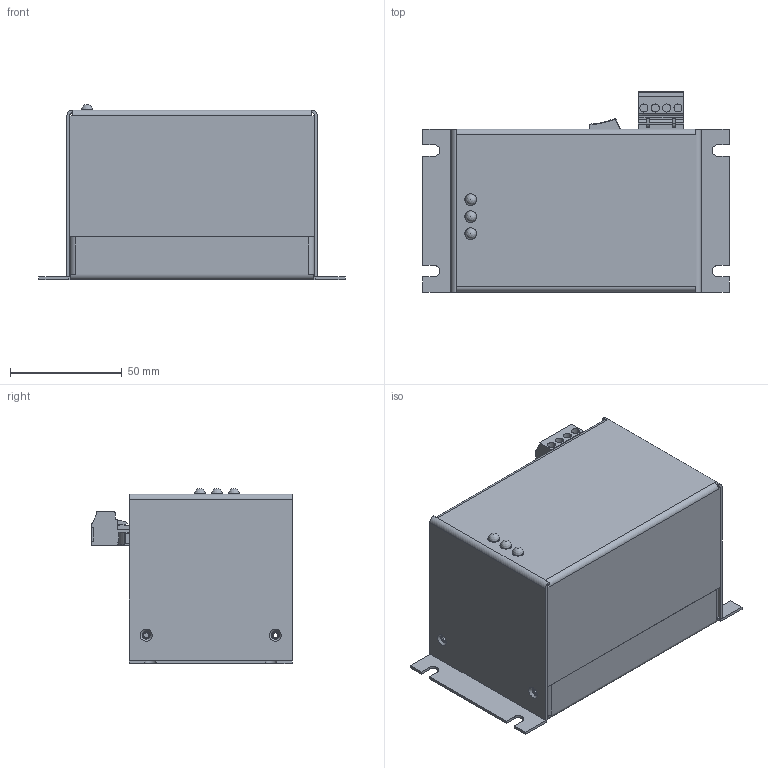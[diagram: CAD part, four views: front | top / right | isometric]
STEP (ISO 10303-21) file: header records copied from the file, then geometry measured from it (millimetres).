
FILE_DESCRIPTION(/* description */ ('Alibre Inc.'),/* implementation_level */ '2;1');
FILE_NAME(/* name */ 'export0',/* time_stamp */ '2015-09-03T10:27:49-06:00',/* author */ (''),/* organization */ (''),/* preprocessor_version */ 'ST-DEVELOPER v14',/* originating_system */ 'Alibre',/* authorisation */ '');
FILE_SCHEMA (('CONFIG_CONTROL_DESIGN'));
Length unit declared in the file: centimetre
Products named in the file (141): ID_1; ID_2; ID_3; ID_4; ID_5; ID_6; ID_7; ID_8; ID_9; ID_10; ID_11; ID_12; ID_13; ID_14; ID_15; ID_16; ID_17; ID_18; ID_19; ID_20; ID_21; ID_22; ID_23; ID_24; ID_25; ID_26; ID_27; ID_28; ID_29; ID_30; ID_31; ID_32; ID_33; ID_34; ID_35; ID_36; ID_37; ID_38; ID_39; ID_40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
Bounding box: 137.16 x 89.81 x 78.37 mm (x, y, z)
Volume: 309994.6 mm3; surface area: 170972.2 mm2
Topology: 185 solids, 185 shells, 4931 faces, 11839 edges, 6981 vertices
Faces by surface type: plane 2577, cylinder 1553, sphere 318, bspline 290, torus 116, cone 74, revolution 3
Full cylindrical faces by diameter (mm): 0.35 x1, 0.65 x4, 0.9 x6, 1.09 x5, 1.6 x10, 1.98 x1, 2.819 x2, 3.175 x6, 3.25 x1, 4.216 x8, 4.902 x3, 5.334 x3, 5.5 x1, 6 x1, 7.137 x3, 7.8 x1, 7.9 x1, 9.97 x4
Entity records: 103407 total; most frequent: CARTESIAN_POINT 21144, ORIENTED_EDGE 14324, DIRECTION 12208, EDGE_CURVE 7162, VECTOR 5079, LINE 5079, VERTEX_POINT 4502, AXIS2_PLACEMENT_3D 4493
